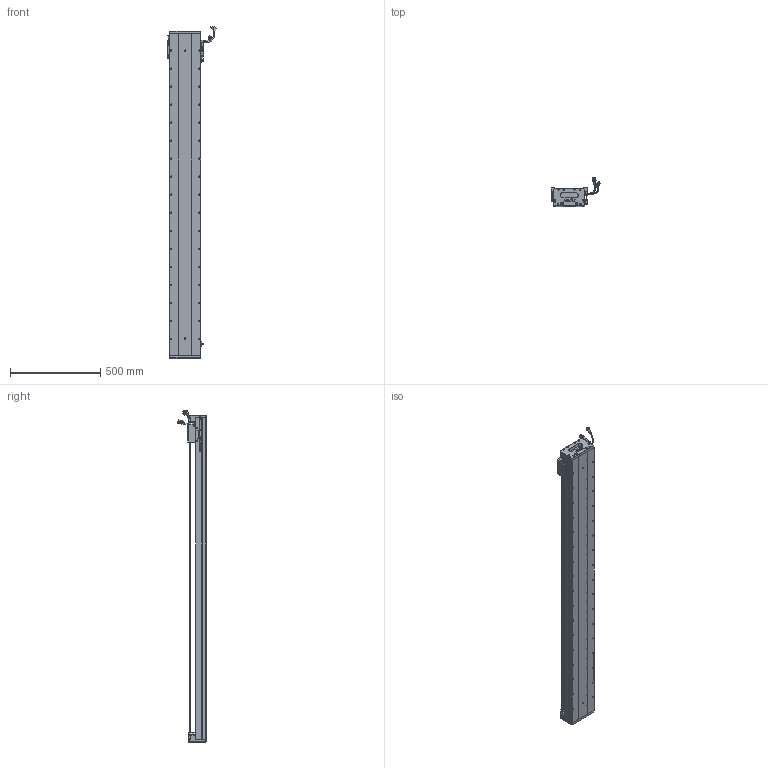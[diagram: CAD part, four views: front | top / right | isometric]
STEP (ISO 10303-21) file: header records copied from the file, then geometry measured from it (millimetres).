
FILE_DESCRIPTION (( 'STEP AP203' ), '1' );
FILE_NAME ('Z1-RY170D-1-L500-B-K.SLDASM_1600.step', '2021-05-17T08:53:27', ( '盈信电脑' ), ( '东莞市道滘镇水果街19号' ), 'SwSTEP 2.0', 'SolidWorks 2016', '' );
FILE_SCHEMA (( 'CONFIG_CONTROL_DESIGN' ));
Length unit declared in the file: millimetre
Products named in the file (36): HARNESS-Part-1; 080黍杅芛假蚾釱21遴; COVER-Part-1; SCREW-M1.6-1; Z-170詩湍傷裔啣; 榋妏寠巭燃_暯_M2_2; SCREW-M1.7; SCREW-M1.6; 170-Z-臏賑輸盄裔(21遴); Z-RY170詩湍狟揤裔; Z1-RY170D-1-L500-B-K.SLDASM_1600; SCREW-M1.6-3; Z1-RY170-L500耀郪菁釱_1600; 140蚥薯蝶輸; PBU_SHEET; LABEL-Part-1; PSLH080_PSLF2; 140雄赽晤鎢ん堤盄; SCALE-Part-2; SCREW-M1.6-2; HARNESS; 覜茼ん672; HOLDER0; LABEL; COVER; Z1-RY170-L500詩湍145mm遵_1600; SCALE-Part-1; Z1-RY170臏賑輸(21遴); SEAL-Part-1; SCREW-M1.7-1; RY170直线电机感应器672光电感应片; Z-RY170詩湍奻揤裔; SEAL; SHIELDPLATE; SCALE; HARNESS-Part-2
Assembly tree (41 placements, depth 4):
  Z1-RY170D-1-L500-B-K.SLDASM_1600
    Z1-RY170-L500耀郪菁釱_1600
    RY170直线电机感应器672光电感应片
    Z1-RY170臏賑輸(21遴)
    覜茼ん672  x3
    PSLH080_PSLF2
      SCALE
        SCALE-Part-1
        SCALE-Part-2
      HARNESS
        HARNESS-Part-1
        HARNESS-Part-2
      LABEL
        LABEL-Part-1
      COVER
        COVER-Part-1
      SEAL
        SEAL-Part-1
      榋妏寠巭燃_暯_M2_2
      SHIELDPLATE
      SCREW-M1.7
      SCREW-M1.7-1
      PBU_SHEET
      SCREW-M1.6
      SCREW-M1.6-1
      SCREW-M1.6-2
      SCREW-M1.6-3
      HOLDER0
    080黍杅芛假蚾釱21遴
    Z1-RY170-L500詩湍145mm遵_1600
    Z-170詩湍傷裔啣  x2
    Z-RY170詩湍奻揤裔  x2
    Z-RY170詩湍狟揤裔  x2
    140蚥薯蝶輸  x2
    170-Z-臏賑輸盄裔(21遴)
    140雄赽晤鎢ん堤盄
Bounding box: 275.33 x 158.11 x 1843.72 mm (x, y, z)
Volume: 9136783.1 mm3; surface area: 2276857.4 mm2
Topology: 36 solids, 36 shells, 3414 faces, 9311 edges, 5833 vertices
Faces by surface type: cylinder 1632, plane 1208, cone 452, torus 69, bspline 53
Entity records: 103723 total; most frequent: CARTESIAN_POINT 27896, ORIENTED_EDGE 15298, DIRECTION 14597, EDGE_CURVE 7649, AXIS2_PLACEMENT_3D 5344, VERTEX_POINT 4951, VECTOR 3909, LINE 3909
